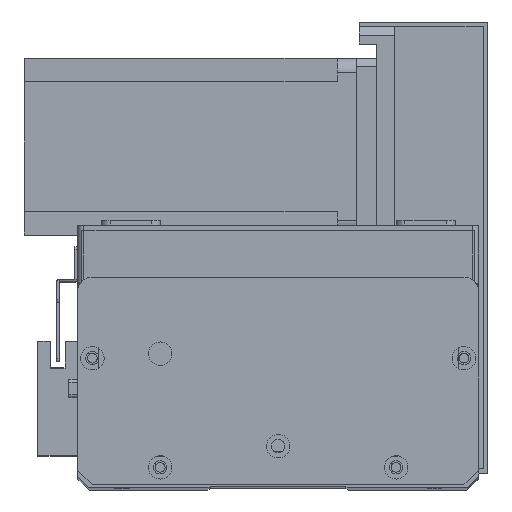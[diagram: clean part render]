
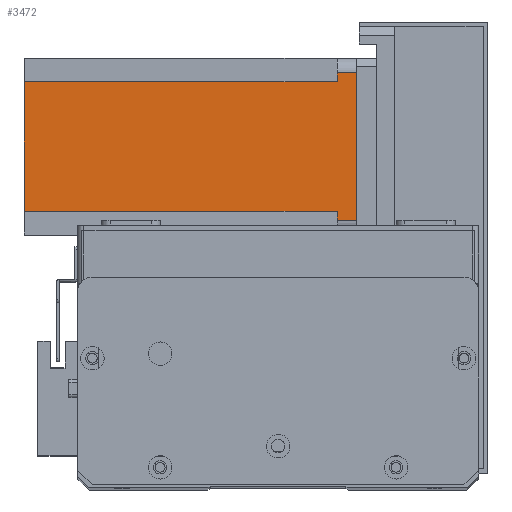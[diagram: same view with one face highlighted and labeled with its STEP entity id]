
A CAD part, top view. The second image highlights one B-rep face of the part: STEP entity #3472.
In plain terms, the highlighted planar face has unit normal (0, 0, 1) as drawn and (0, 1, 0) by its records, which use the part's own axes.
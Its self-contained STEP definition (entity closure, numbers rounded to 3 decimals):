
#41 = LINE ( 'NONE', #19024, #5447 ) ;
#46 = VECTOR ( 'NONE', #17378, 1000. ) ;
#556 = VERTEX_POINT ( 'NONE', #25022 ) ;
#817 = VERTEX_POINT ( 'NONE', #1700 ) ;
#971 = LINE ( 'NONE', #24934, #12463 ) ;
#1700 = CARTESIAN_POINT ( 'NONE',  ( 52., 60., -6.5 ) ) ;
#1939 = ORIENTED_EDGE ( 'NONE', *, *, #26009, .T. ) ;
#2321 = VECTOR ( 'NONE', #7152, 1000. ) ;
#2390 = CARTESIAN_POINT ( 'NONE',  ( 8., 60., -112.5 ) ) ;
#2668 = LINE ( 'NONE', #4680, #12718 ) ;
#2977 = ORIENTED_EDGE ( 'NONE', *, *, #22272, .F. ) ;
#3406 = EDGE_CURVE ( 'NONE', #556, #7144, #41, .T. ) ;
#3472 = ADVANCED_FACE ( 'NONE', ( #16091 ), #9892, .T. ) ;
#3536 = CARTESIAN_POINT ( 'NONE',  ( 0., 60., 0. ) ) ;
#3689 = DIRECTION ( 'NONE',  ( -1., 0., 0. ) ) ;
#3709 = CARTESIAN_POINT ( 'NONE',  ( 52., 60., -6.5 ) ) ;
#4369 = ORIENTED_EDGE ( 'NONE', *, *, #5333, .F. ) ;
#4680 = CARTESIAN_POINT ( 'NONE',  ( 5., 60., -112.5 ) ) ;
#4883 = CARTESIAN_POINT ( 'NONE',  ( 8., 60., -6.5 ) ) ;
#5052 = DIRECTION ( 'NONE',  ( -1., 0., 0. ) ) ;
#5333 = EDGE_CURVE ( 'NONE', #6441, #5786, #6067, .T. ) ;
#5447 = VECTOR ( 'NONE', #16619, 1000. ) ;
#5786 = VERTEX_POINT ( 'NONE', #6922 ) ;
#6067 = LINE ( 'NONE', #3536, #15984 ) ;
#6333 = CARTESIAN_POINT ( 'NONE',  ( 52., 60., -112.5 ) ) ;
#6441 = VERTEX_POINT ( 'NONE', #16836 ) ;
#6491 = CARTESIAN_POINT ( 'NONE',  ( 55., 60., -112.5 ) ) ;
#6922 = CARTESIAN_POINT ( 'NONE',  ( 5., 60., 0. ) ) ;
#7144 = VERTEX_POINT ( 'NONE', #2390 ) ;
#7152 = DIRECTION ( 'NONE',  ( -1., 0., 0. ) ) ;
#7375 = DIRECTION ( 'NONE',  ( 0., 0., 1. ) ) ;
#7576 = DIRECTION ( 'NONE',  ( 0., 1., 0. ) ) ;
#8076 = CARTESIAN_POINT ( 'NONE',  ( 0., 60., -112.5 ) ) ;
#9133 = VECTOR ( 'NONE', #21985, 1000. ) ;
#9892 = PLANE ( 'NONE',  #20618 ) ;
#10210 = CARTESIAN_POINT ( 'NONE',  ( 52., 60., -112.5 ) ) ;
#10316 = DIRECTION ( 'NONE',  ( 0., 0., 1. ) ) ;
#10809 = LINE ( 'NONE', #10210, #21063 ) ;
#10933 = ORIENTED_EDGE ( 'NONE', *, *, #24726, .T. ) ;
#11549 = VERTEX_POINT ( 'NONE', #26705 ) ;
#12249 = CARTESIAN_POINT ( 'NONE',  ( 55., 60., -6.5 ) ) ;
#12463 = VECTOR ( 'NONE', #5052, 1000. ) ;
#12718 = VECTOR ( 'NONE', #26735, 1000. ) ;
#12980 = LINE ( 'NONE', #3709, #46 ) ;
#15106 = LINE ( 'NONE', #6491, #9133 ) ;
#15545 = EDGE_LOOP ( 'NONE', ( #4369, #21152, #2977, #18511, #10933, #26514, #1939, #21896 ) ) ;
#15984 = VECTOR ( 'NONE', #3689, 1000. ) ;
#16091 = FACE_OUTER_BOUND ( 'NONE', #15545, .T. ) ;
#16619 = DIRECTION ( 'NONE',  ( 0., 0., -1. ) ) ;
#16836 = CARTESIAN_POINT ( 'NONE',  ( 55., 60., 0. ) ) ;
#17378 = DIRECTION ( 'NONE',  ( 1., 0., 0. ) ) ;
#18435 = VERTEX_POINT ( 'NONE', #6333 ) ;
#18511 = ORIENTED_EDGE ( 'NONE', *, *, #23326, .F. ) ;
#19024 = CARTESIAN_POINT ( 'NONE',  ( 8., 60., -112.5 ) ) ;
#19569 = LINE ( 'NONE', #4883, #2321 ) ;
#20618 = AXIS2_PLACEMENT_3D ( 'NONE', #8076, #7576, #7375 ) ;
#21063 = VECTOR ( 'NONE', #10316, 1000. ) ;
#21152 = ORIENTED_EDGE ( 'NONE', *, *, #21731, .T. ) ;
#21731 = EDGE_CURVE ( 'NONE', #6441, #25501, #15106, .T. ) ;
#21896 = ORIENTED_EDGE ( 'NONE', *, *, #28281, .T. ) ;
#21985 = DIRECTION ( 'NONE',  ( 0., 0., -1. ) ) ;
#22272 = EDGE_CURVE ( 'NONE', #817, #25501, #12980, .T. ) ;
#23326 = EDGE_CURVE ( 'NONE', #18435, #817, #10809, .T. ) ;
#24726 = EDGE_CURVE ( 'NONE', #18435, #7144, #971, .T. ) ;
#24934 = CARTESIAN_POINT ( 'NONE',  ( 0., 60., -112.5 ) ) ;
#25022 = CARTESIAN_POINT ( 'NONE',  ( 8., 60., -6.5 ) ) ;
#25501 = VERTEX_POINT ( 'NONE', #12249 ) ;
#26009 = EDGE_CURVE ( 'NONE', #556, #11549, #19569, .T. ) ;
#26514 = ORIENTED_EDGE ( 'NONE', *, *, #3406, .F. ) ;
#26705 = CARTESIAN_POINT ( 'NONE',  ( 5., 60., -6.5 ) ) ;
#26735 = DIRECTION ( 'NONE',  ( 0., 0., 1. ) ) ;
#28281 = EDGE_CURVE ( 'NONE', #11549, #5786, #2668, .T. ) ;
